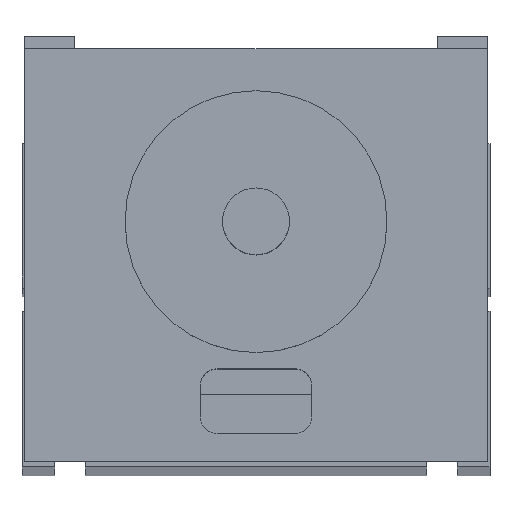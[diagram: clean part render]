
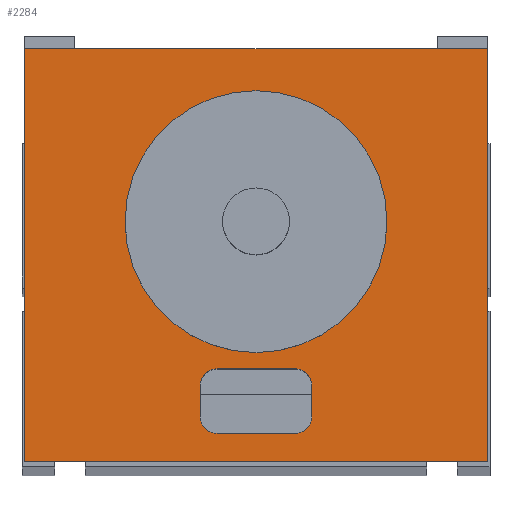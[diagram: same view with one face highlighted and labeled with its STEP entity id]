
A CAD part, top view. The second image highlights one B-rep face of the part: STEP entity #2284.
In plain terms, the highlighted planar face has unit normal (0, 0, 1).
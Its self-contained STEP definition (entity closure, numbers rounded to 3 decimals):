
#124 = CARTESIAN_POINT ( 'NONE',  ( 65., 43., 30. ) ) ;
#133 = CIRCLE ( 'NONE', #138, 23.5 ) ;
#135 = DIRECTION ( 'NONE',  ( -1., 0., 0. ) ) ;
#136 = DIRECTION ( 'NONE',  ( 0., 0., 1. ) ) ;
#137 = CARTESIAN_POINT ( 'NONE',  ( 41.5, 43., 30. ) ) ;
#138 = AXIS2_PLACEMENT_3D ( 'NONE', #137, #136, #135 ) ;
#276 = DIRECTION ( 'NONE',  ( 0., 1., 0. ) ) ;
#337 = DIRECTION ( 'NONE',  ( 0., -1., 0. ) ) ;
#338 = VECTOR ( 'NONE', #337, 1000. ) ;
#339 = LINE ( 'NONE', #347, #346 ) ;
#341 = CARTESIAN_POINT ( 'NONE',  ( 0., 0., 30. ) ) ;
#342 = LINE ( 'NONE', #341, #338 ) ;
#346 = VECTOR ( 'NONE', #276, 1000. ) ;
#347 = CARTESIAN_POINT ( 'NONE',  ( 83., 0., 30. ) ) ;
#366 = CARTESIAN_POINT ( 'NONE',  ( 0., 0., 30. ) ) ;
#540 = VERTEX_POINT ( 'NONE', #1991 ) ;
#632 = CARTESIAN_POINT ( 'NONE',  ( 0., 74., 30. ) ) ;
#697 = VERTEX_POINT ( 'NONE', #124 ) ;
#707 = EDGE_CURVE ( 'NONE', #697, #540, #133, .T. ) ;
#969 = ORIENTED_EDGE ( 'NONE', *, *, #2003, .T. ) ;
#971 = VERTEX_POINT ( 'NONE', #366 ) ;
#979 = EDGE_LOOP ( 'NONE', ( #1967, #2455 ) ) ;
#986 = EDGE_CURVE ( 'NONE', #2002, #1816, #339, .T. ) ;
#987 = EDGE_CURVE ( 'NONE', #989, #971, #342, .T. ) ;
#989 = VERTEX_POINT ( 'NONE', #632 ) ;
#1816 = VERTEX_POINT ( 'NONE', #3102 ) ;
#1967 = ORIENTED_EDGE ( 'NONE', *, *, #2490, .F. ) ;
#1991 = CARTESIAN_POINT ( 'NONE',  ( 18., 43., 30. ) ) ;
#2002 = VERTEX_POINT ( 'NONE', #3290 ) ;
#2003 = EDGE_CURVE ( 'NONE', #971, #2002, #3279, .T. ) ;
#2004 = ORIENTED_EDGE ( 'NONE', *, *, #986, .T. ) ;
#2006 = EDGE_LOOP ( 'NONE', ( #2010, #969, #2004, #2021 ) ) ;
#2010 = ORIENTED_EDGE ( 'NONE', *, *, #987, .T. ) ;
#2012 = EDGE_CURVE ( 'NONE', #2016, #2275, #3281, .T. ) ;
#2015 = EDGE_CURVE ( 'NONE', #2280, #2016, #3299, .T. ) ;
#2016 = VERTEX_POINT ( 'NONE', #3326 ) ;
#2018 = EDGE_CURVE ( 'NONE', #1816, #989, #3321, .T. ) ;
#2021 = ORIENTED_EDGE ( 'NONE', *, *, #2018, .T. ) ;
#2024 = ORIENTED_EDGE ( 'NONE', *, *, #2015, .F. ) ;
#2219 = ORIENTED_EDGE ( 'NONE', *, *, #2224, .F. ) ;
#2221 = EDGE_CURVE ( 'NONE', #2223, #2279, #3647, .T. ) ;
#2223 = VERTEX_POINT ( 'NONE', #3626 ) ;
#2224 = EDGE_CURVE ( 'NONE', #2251, #2223, #3629, .T. ) ;
#2244 = ORIENTED_EDGE ( 'NONE', *, *, #2272, .F. ) ;
#2251 = VERTEX_POINT ( 'NONE', #3654 ) ;
#2272 = EDGE_CURVE ( 'NONE', #2275, #2251, #3734, .T. ) ;
#2275 = VERTEX_POINT ( 'NONE', #3743 ) ;
#2276 = ORIENTED_EDGE ( 'NONE', *, *, #2012, .F. ) ;
#2277 = EDGE_CURVE ( 'NONE', #2278, #2294, #3722, .T. ) ;
#2278 = VERTEX_POINT ( 'NONE', #3723 ) ;
#2279 = VERTEX_POINT ( 'NONE', #3728 ) ;
#2280 = VERTEX_POINT ( 'NONE', #3715 ) ;
#2281 = ORIENTED_EDGE ( 'NONE', *, *, #2277, .F. ) ;
#2282 = ORIENTED_EDGE ( 'NONE', *, *, #2221, .F. ) ;
#2284 = ADVANCED_FACE ( 'NONE', ( #3744, #3718, #3716 ), #3724, .F. ) ;
#2285 = EDGE_CURVE ( 'NONE', #2279, #2278, #3782, .T. ) ;
#2290 = EDGE_LOOP ( 'NONE', ( #2293, #2281, #2291, #2282, #2219, #2244, #2276, #2024 ) ) ;
#2291 = ORIENTED_EDGE ( 'NONE', *, *, #2285, .F. ) ;
#2292 = EDGE_CURVE ( 'NONE', #2294, #2280, #3757, .T. ) ;
#2293 = ORIENTED_EDGE ( 'NONE', *, *, #2292, .F. ) ;
#2294 = VERTEX_POINT ( 'NONE', #3770 ) ;
#2455 = ORIENTED_EDGE ( 'NONE', *, *, #707, .F. ) ;
#2490 = EDGE_CURVE ( 'NONE', #540, #697, #4098, .T. ) ;
#3102 = CARTESIAN_POINT ( 'NONE',  ( 83., 74., 30. ) ) ;
#3276 = DIRECTION ( 'NONE',  ( 1., 0., 0. ) ) ;
#3277 = VECTOR ( 'NONE', #3276, 1000. ) ;
#3278 = CARTESIAN_POINT ( 'NONE',  ( 0., 0., 30. ) ) ;
#3279 = LINE ( 'NONE', #3278, #3277 ) ;
#3281 = CIRCLE ( 'NONE', #3332, 3. ) ;
#3290 = CARTESIAN_POINT ( 'NONE',  ( 83., 0., 30. ) ) ;
#3298 = CARTESIAN_POINT ( 'NONE',  ( 31.5, 8., 30. ) ) ;
#3299 = LINE ( 'NONE', #3298, #3325 ) ;
#3318 = DIRECTION ( 'NONE',  ( -1., 0., 0. ) ) ;
#3319 = VECTOR ( 'NONE', #3318, 1000. ) ;
#3320 = CARTESIAN_POINT ( 'NONE',  ( 0., 74., 30. ) ) ;
#3321 = LINE ( 'NONE', #3320, #3319 ) ;
#3324 = DIRECTION ( 'NONE',  ( 0., -1., 0. ) ) ;
#3325 = VECTOR ( 'NONE', #3324, 1000. ) ;
#3326 = CARTESIAN_POINT ( 'NONE',  ( 31.5, 8., 30. ) ) ;
#3329 = DIRECTION ( 'NONE',  ( 1., 0., 0. ) ) ;
#3330 = DIRECTION ( 'NONE',  ( 0., 0., 1. ) ) ;
#3331 = CARTESIAN_POINT ( 'NONE',  ( 34.5, 8., 30. ) ) ;
#3332 = AXIS2_PLACEMENT_3D ( 'NONE', #3331, #3330, #3329 ) ;
#3620 = DIRECTION ( 'NONE',  ( 0., 0., 1. ) ) ;
#3621 = CARTESIAN_POINT ( 'NONE',  ( 48.5, 8., 30. ) ) ;
#3626 = CARTESIAN_POINT ( 'NONE',  ( 51.5, 8., 30. ) ) ;
#3629 = CIRCLE ( 'NONE', #3639, 3. ) ;
#3639 = AXIS2_PLACEMENT_3D ( 'NONE', #3621, #3620, #3681 ) ;
#3640 = DIRECTION ( 'NONE',  ( 0., 1., 0. ) ) ;
#3641 = VECTOR ( 'NONE', #3640, 1000. ) ;
#3646 = CARTESIAN_POINT ( 'NONE',  ( 51.5, 8., 30. ) ) ;
#3647 = LINE ( 'NONE', #3646, #3641 ) ;
#3654 = CARTESIAN_POINT ( 'NONE',  ( 48.5, 5., 30. ) ) ;
#3681 = DIRECTION ( 'NONE',  ( -1., 0., 0. ) ) ;
#3715 = CARTESIAN_POINT ( 'NONE',  ( 31.5, 13.6, 30. ) ) ;
#3716 = FACE_BOUND ( 'NONE', #979, .T. ) ;
#3717 = AXIS2_PLACEMENT_3D ( 'NONE', #3779, #3778, #3777 ) ;
#3718 = FACE_OUTER_BOUND ( 'NONE', #2006, .T. ) ;
#3719 = DIRECTION ( 'NONE',  ( -1., 0., 0. ) ) ;
#3720 = VECTOR ( 'NONE', #3719, 1000. ) ;
#3721 = CARTESIAN_POINT ( 'NONE',  ( 34.5, 16.6, 30. ) ) ;
#3722 = LINE ( 'NONE', #3721, #3720 ) ;
#3723 = CARTESIAN_POINT ( 'NONE',  ( 48.5, 16.6, 30. ) ) ;
#3724 = PLANE ( 'NONE',  #3717 ) ;
#3728 = CARTESIAN_POINT ( 'NONE',  ( 51.5, 13.6, 30. ) ) ;
#3731 = DIRECTION ( 'NONE',  ( 1., 0., 0. ) ) ;
#3732 = VECTOR ( 'NONE', #3731, 1000. ) ;
#3733 = CARTESIAN_POINT ( 'NONE',  ( 34.5, 5., 30. ) ) ;
#3734 = LINE ( 'NONE', #3733, #3732 ) ;
#3743 = CARTESIAN_POINT ( 'NONE',  ( 34.5, 5., 30. ) ) ;
#3744 = FACE_BOUND ( 'NONE', #2290, .T. ) ;
#3755 = DIRECTION ( 'NONE',  ( -1., 0., 0. ) ) ;
#3756 = AXIS2_PLACEMENT_3D ( 'NONE', #3764, #3769, #3755 ) ;
#3757 = CIRCLE ( 'NONE', #3756, 3. ) ;
#3764 = CARTESIAN_POINT ( 'NONE',  ( 34.5, 13.6, 30. ) ) ;
#3769 = DIRECTION ( 'NONE',  ( 0., 0., 1. ) ) ;
#3770 = CARTESIAN_POINT ( 'NONE',  ( 34.5, 16.6, 30. ) ) ;
#3771 = DIRECTION ( 'NONE',  ( 1., 0., 0. ) ) ;
#3772 = DIRECTION ( 'NONE',  ( 0., 0., 1. ) ) ;
#3773 = AXIS2_PLACEMENT_3D ( 'NONE', #3780, #3772, #3771 ) ;
#3777 = DIRECTION ( 'NONE',  ( -1., 0., 0. ) ) ;
#3778 = DIRECTION ( 'NONE',  ( 0., 0., -1. ) ) ;
#3779 = CARTESIAN_POINT ( 'NONE',  ( 0., 74., 30. ) ) ;
#3780 = CARTESIAN_POINT ( 'NONE',  ( 48.5, 13.6, 30. ) ) ;
#3782 = CIRCLE ( 'NONE', #3773, 3. ) ;
#4096 = AXIS2_PLACEMENT_3D ( 'NONE', #4111, #4142, #4141 ) ;
#4098 = CIRCLE ( 'NONE', #4096, 23.5 ) ;
#4111 = CARTESIAN_POINT ( 'NONE',  ( 41.5, 43., 30. ) ) ;
#4141 = DIRECTION ( 'NONE',  ( -1., 0., 0. ) ) ;
#4142 = DIRECTION ( 'NONE',  ( 0., 0., 1. ) ) ;
